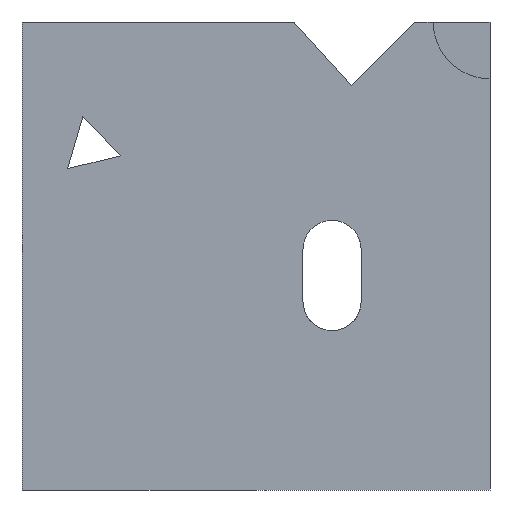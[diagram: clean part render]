
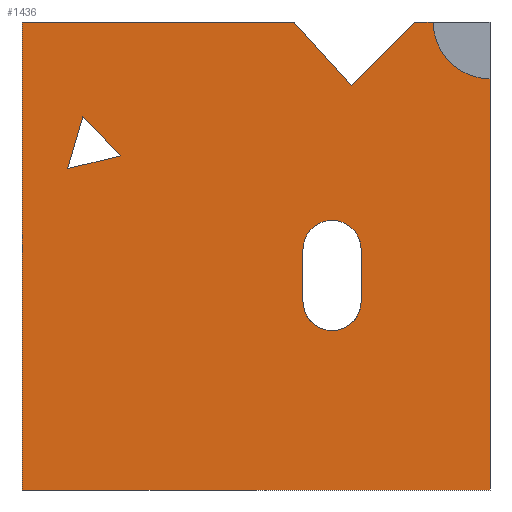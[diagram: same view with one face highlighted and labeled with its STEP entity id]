
A CAD part, left-side view. The second image highlights one B-rep face of the part: STEP entity #1436.
In plain terms, the highlighted planar face has unit normal (-1, 0, 0).
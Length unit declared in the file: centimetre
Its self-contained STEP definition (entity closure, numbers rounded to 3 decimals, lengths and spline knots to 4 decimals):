
#8 = AXIS2_PLACEMENT_3D ( 'NONE', #84, #219, #1524 ) ;
#17 = VERTEX_POINT ( 'NONE', #279 ) ;
#47 = ORIENTED_EDGE ( 'NONE', *, *, #515, .T. ) ;
#55 = CARTESIAN_POINT ( 'NONE',  ( 0., 1000., 1000. ) ) ;
#66 = ORIENTED_EDGE ( 'NONE', *, *, #919, .T. ) ;
#84 = CARTESIAN_POINT ( 'NONE',  ( 0., 1000., 1000. ) ) ;
#109 = CARTESIAN_POINT ( 'NONE',  ( 0., 0., 0. ) ) ;
#111 = DIRECTION ( 'NONE',  ( 0., 0., -1. ) ) ;
#126 = LINE ( 'NONE', #762, #608 ) ;
#164 = LINE ( 'NONE', #1435, #577 ) ;
#219 = DIRECTION ( 'NONE',  ( 1., 0., 0. ) ) ;
#225 = CIRCLE ( 'NONE', #814, 62.1325 ) ;
#227 = AXIS2_PLACEMENT_3D ( 'NONE', #868, #702, #740 ) ;
#256 = LINE ( 'NONE', #1173, #1011 ) ;
#270 = DIRECTION ( 'NONE',  ( 0., -1., 0. ) ) ;
#272 = VECTOR ( 'NONE', #1614, 100. ) ;
#279 = CARTESIAN_POINT ( 'NONE',  ( 0., 337.4914, 576.0587 ) ) ;
#287 = ORIENTED_EDGE ( 'NONE', *, *, #554, .F. ) ;
#299 = VECTOR ( 'NONE', #649, 100. ) ;
#304 = ORIENTED_EDGE ( 'NONE', *, *, #1466, .F. ) ;
#305 = CARTESIAN_POINT ( 'NONE',  ( 0., 1000., 0. ) ) ;
#307 = ORIENTED_EDGE ( 'NONE', *, *, #374, .T. ) ;
#311 = EDGE_CURVE ( 'NONE', #1046, #358, #839, .T. ) ;
#319 = CARTESIAN_POINT ( 'NONE',  ( 0., 275.3589, 402.733 ) ) ;
#324 = CARTESIAN_POINT ( 'NONE',  ( 0., 161.0318, 1000. ) ) ;
#325 = EDGE_LOOP ( 'NONE', ( #307, #47, #1486, #1264, #66, #1504, #1627, #1072 ) ) ;
#327 = FACE_BOUND ( 'NONE', #452, .T. ) ;
#344 = EDGE_CURVE ( 'NONE', #346, #17, #225, .T. ) ;
#346 = VERTEX_POINT ( 'NONE', #1531 ) ;
#358 = VERTEX_POINT ( 'NONE', #1278 ) ;
#374 = EDGE_CURVE ( 'NONE', #614, #1214, #126, .T. ) ;
#385 = DIRECTION ( 'NONE',  ( -1., 0., 0. ) ) ;
#396 = DIRECTION ( 'NONE',  ( 0., 0.673, 0.739 ) ) ;
#439 = EDGE_LOOP ( 'NONE', ( #1017, #287, #700 ) ) ;
#440 = DIRECTION ( 'NONE',  ( 0., 0., -1. ) ) ;
#452 = EDGE_LOOP ( 'NONE', ( #304, #1146, #795, #1364, #950 ) ) ;
#465 = VERTEX_POINT ( 'NONE', #1033 ) ;
#478 = VERTEX_POINT ( 'NONE', #1453 ) ;
#486 = CARTESIAN_POINT ( 'NONE',  ( 0., 337.4914, 402.733 ) ) ;
#501 = CIRCLE ( 'NONE', #1449, 62.1325 ) ;
#506 = EDGE_CURVE ( 'NONE', #17, #1463, #984, .T. ) ;
#515 = EDGE_CURVE ( 'NONE', #1214, #826, #908, .T. ) ;
#523 = EDGE_CURVE ( 'NONE', #614, #618, #164, .T. ) ;
#526 = DIRECTION ( 'NONE',  ( 0., 0.69, 0.724 ) ) ;
#554 = EDGE_CURVE ( 'NONE', #358, #1411, #256, .T. ) ;
#574 = LINE ( 'NONE', #305, #955 ) ;
#577 = VECTOR ( 'NONE', #270, 100. ) ;
#593 = VERTEX_POINT ( 'NONE', #985 ) ;
#597 = CARTESIAN_POINT ( 'NONE',  ( 0., 121.4147, 1000. ) ) ;
#603 = LINE ( 'NONE', #1123, #1181 ) ;
#608 = VECTOR ( 'NONE', #1548, 100. ) ;
#614 = VERTEX_POINT ( 'NONE', #324 ) ;
#616 = DIRECTION ( 'NONE',  ( -1., 0., 0. ) ) ;
#618 = VERTEX_POINT ( 'NONE', #597 ) ;
#643 = LINE ( 'NONE', #1163, #1233 ) ;
#649 = DIRECTION ( 'NONE',  ( 0., 0.282, -0.96 ) ) ;
#656 = EDGE_CURVE ( 'NONE', #465, #826, #1343, .T. ) ;
#693 = DIRECTION ( 'NONE',  ( 0., -1., 0. ) ) ;
#698 = CARTESIAN_POINT ( 'NONE',  ( 0., 399.6239, 402.733 ) ) ;
#700 = ORIENTED_EDGE ( 'NONE', *, *, #311, .F. ) ;
#702 = DIRECTION ( 'NONE',  ( -1., 0., 0. ) ) ;
#740 = DIRECTION ( 'NONE',  ( 0., 0., 1. ) ) ;
#753 = CARTESIAN_POINT ( 'NONE',  ( 0., 869.8474, 797.9904 ) ) ;
#762 = CARTESIAN_POINT ( 'NONE',  ( 0., 161.0318, 1000. ) ) ;
#788 = EDGE_CURVE ( 'NONE', #1463, #898, #603, .T. ) ;
#795 = ORIENTED_EDGE ( 'NONE', *, *, #788, .F. ) ;
#814 = AXIS2_PLACEMENT_3D ( 'NONE', #1135, #616, #1694 ) ;
#826 = VERTEX_POINT ( 'NONE', #881 ) ;
#839 = LINE ( 'NONE', #1362, #921 ) ;
#868 = CARTESIAN_POINT ( 'NONE',  ( 0., 0., 1000. ) ) ;
#872 = VECTOR ( 'NONE', #396, 100. ) ;
#881 = CARTESIAN_POINT ( 'NONE',  ( 0., 418.6761, 1000. ) ) ;
#884 = DIRECTION ( 'NONE',  ( 0., 0., 1. ) ) ;
#898 = VERTEX_POINT ( 'NONE', #698 ) ;
#900 = VECTOR ( 'NONE', #440, 100. ) ;
#902 = DIRECTION ( 'NONE',  ( 0., 0., 1. ) ) ;
#908 = LINE ( 'NONE', #936, #872 ) ;
#919 = EDGE_CURVE ( 'NONE', #478, #1575, #574, .T. ) ;
#921 = VECTOR ( 'NONE', #1295, 100. ) ;
#936 = CARTESIAN_POINT ( 'NONE',  ( 0., 295.8922, 865.1396 ) ) ;
#950 = ORIENTED_EDGE ( 'NONE', *, *, #344, .F. ) ;
#955 = VECTOR ( 'NONE', #1207, 100. ) ;
#958 = CIRCLE ( 'NONE', #227, 121.4147 ) ;
#981 = EDGE_CURVE ( 'NONE', #1062, #1575, #1091, .T. ) ;
#984 = CIRCLE ( 'NONE', #1615, 62.1325 ) ;
#985 = CARTESIAN_POINT ( 'NONE',  ( 0., 275.3589, 402.733 ) ) ;
#1011 = VECTOR ( 'NONE', #526, 100. ) ;
#1017 = ORIENTED_EDGE ( 'NONE', *, *, #1183, .F. ) ;
#1033 = CARTESIAN_POINT ( 'NONE',  ( 0., 1000., 1000. ) ) ;
#1046 = VERTEX_POINT ( 'NONE', #1526 ) ;
#1062 = VERTEX_POINT ( 'NONE', #1102 ) ;
#1072 = ORIENTED_EDGE ( 'NONE', *, *, #523, .F. ) ;
#1088 = LINE ( 'NONE', #319, #272 ) ;
#1091 = LINE ( 'NONE', #1618, #900 ) ;
#1100 = CARTESIAN_POINT ( 'NONE',  ( 0., 869.8474, 797.9904 ) ) ;
#1102 = CARTESIAN_POINT ( 'NONE',  ( 0., 0., 878.5853 ) ) ;
#1123 = CARTESIAN_POINT ( 'NONE',  ( 0., 399.6239, 513.9262 ) ) ;
#1132 = EDGE_CURVE ( 'NONE', #465, #478, #643, .T. ) ;
#1135 = CARTESIAN_POINT ( 'NONE',  ( 0., 337.4914, 513.9262 ) ) ;
#1146 = ORIENTED_EDGE ( 'NONE', *, *, #1509, .F. ) ;
#1163 = CARTESIAN_POINT ( 'NONE',  ( 0., 1000., 1000. ) ) ;
#1173 = CARTESIAN_POINT ( 'NONE',  ( 0., 789.7071, 713.9577 ) ) ;
#1179 = LINE ( 'NONE', #753, #299 ) ;
#1181 = VECTOR ( 'NONE', #1539, 100. ) ;
#1183 = EDGE_CURVE ( 'NONE', #1411, #1046, #1179, .T. ) ;
#1207 = DIRECTION ( 'NONE',  ( 0., -1., 0. ) ) ;
#1209 = CARTESIAN_POINT ( 'NONE',  ( 0., 337.4914, 513.9262 ) ) ;
#1214 = VERTEX_POINT ( 'NONE', #1299 ) ;
#1227 = CARTESIAN_POINT ( 'NONE',  ( 0., 399.6239, 513.9262 ) ) ;
#1233 = VECTOR ( 'NONE', #111, 100. ) ;
#1264 = ORIENTED_EDGE ( 'NONE', *, *, #1132, .T. ) ;
#1278 = CARTESIAN_POINT ( 'NONE',  ( 0., 789.7071, 713.9577 ) ) ;
#1286 = VECTOR ( 'NONE', #693, 100. ) ;
#1295 = DIRECTION ( 'NONE',  ( 0., -0.972, 0.236 ) ) ;
#1299 = CARTESIAN_POINT ( 'NONE',  ( 0., 295.8922, 865.1396 ) ) ;
#1302 = DIRECTION ( 'NONE',  ( -1., 0., 0. ) ) ;
#1343 = LINE ( 'NONE', #55, #1286 ) ;
#1362 = CARTESIAN_POINT ( 'NONE',  ( 0., 902.5517, 686.5705 ) ) ;
#1364 = ORIENTED_EDGE ( 'NONE', *, *, #506, .F. ) ;
#1411 = VERTEX_POINT ( 'NONE', #1100 ) ;
#1435 = CARTESIAN_POINT ( 'NONE',  ( 0., 1000., 1000. ) ) ;
#1436 = ADVANCED_FACE ( 'NONE', ( #327, #1494, #1634 ), #1653, .F. ) ;
#1449 = AXIS2_PLACEMENT_3D ( 'NONE', #486, #1302, #884 ) ;
#1453 = CARTESIAN_POINT ( 'NONE',  ( 0., 1000., 0. ) ) ;
#1459 = EDGE_CURVE ( 'NONE', #618, #1062, #958, .T. ) ;
#1463 = VERTEX_POINT ( 'NONE', #1227 ) ;
#1466 = EDGE_CURVE ( 'NONE', #593, #346, #1088, .T. ) ;
#1486 = ORIENTED_EDGE ( 'NONE', *, *, #656, .F. ) ;
#1494 = FACE_BOUND ( 'NONE', #439, .T. ) ;
#1504 = ORIENTED_EDGE ( 'NONE', *, *, #981, .F. ) ;
#1509 = EDGE_CURVE ( 'NONE', #898, #593, #501, .T. ) ;
#1524 = DIRECTION ( 'NONE',  ( 0., 0., -1. ) ) ;
#1526 = CARTESIAN_POINT ( 'NONE',  ( 0., 902.5517, 686.5705 ) ) ;
#1531 = CARTESIAN_POINT ( 'NONE',  ( 0., 275.3589, 513.9262 ) ) ;
#1539 = DIRECTION ( 'NONE',  ( 0., 0., -1. ) ) ;
#1548 = DIRECTION ( 'NONE',  ( 0., 0.707, -0.707 ) ) ;
#1575 = VERTEX_POINT ( 'NONE', #109 ) ;
#1614 = DIRECTION ( 'NONE',  ( 0., 0., 1. ) ) ;
#1615 = AXIS2_PLACEMENT_3D ( 'NONE', #1209, #385, #902 ) ;
#1618 = CARTESIAN_POINT ( 'NONE',  ( 0., 0., 1000. ) ) ;
#1627 = ORIENTED_EDGE ( 'NONE', *, *, #1459, .F. ) ;
#1634 = FACE_OUTER_BOUND ( 'NONE', #325, .T. ) ;
#1653 = PLANE ( 'NONE',  #8 ) ;
#1694 = DIRECTION ( 'NONE',  ( 0., 0., 1. ) ) ;
